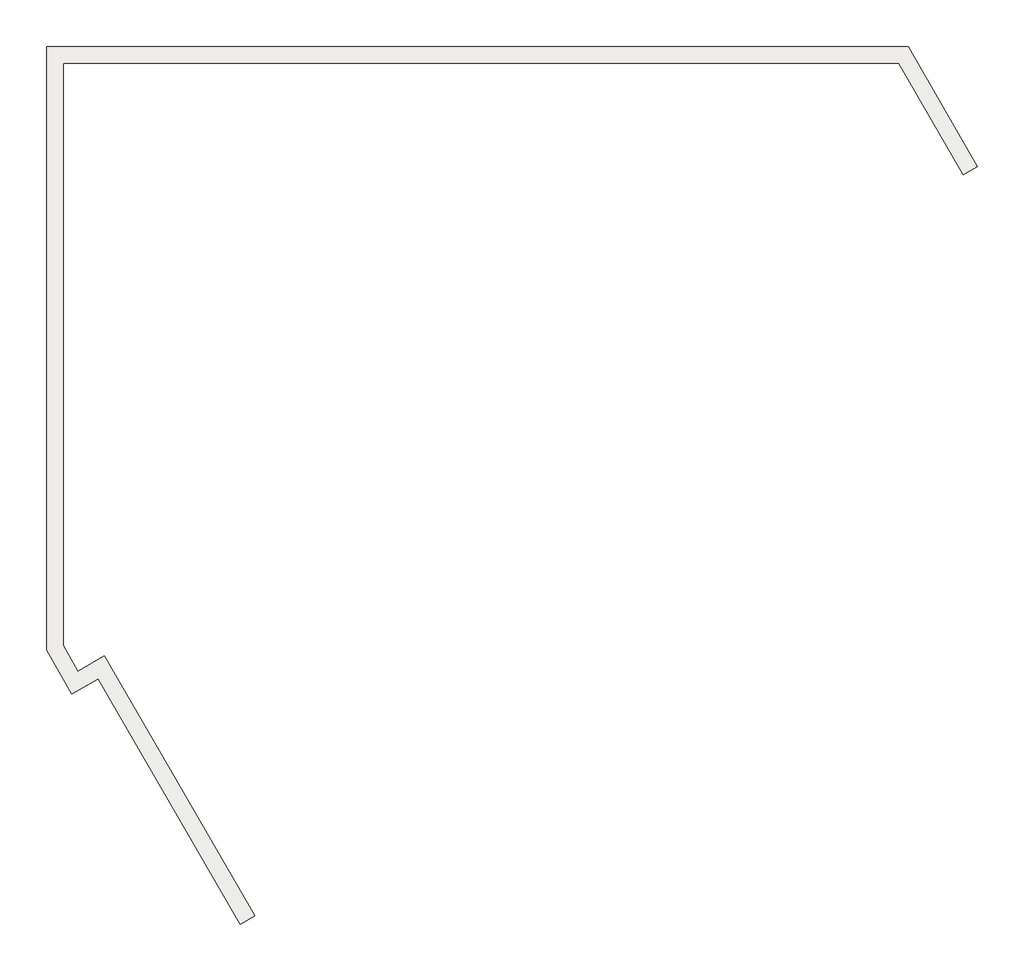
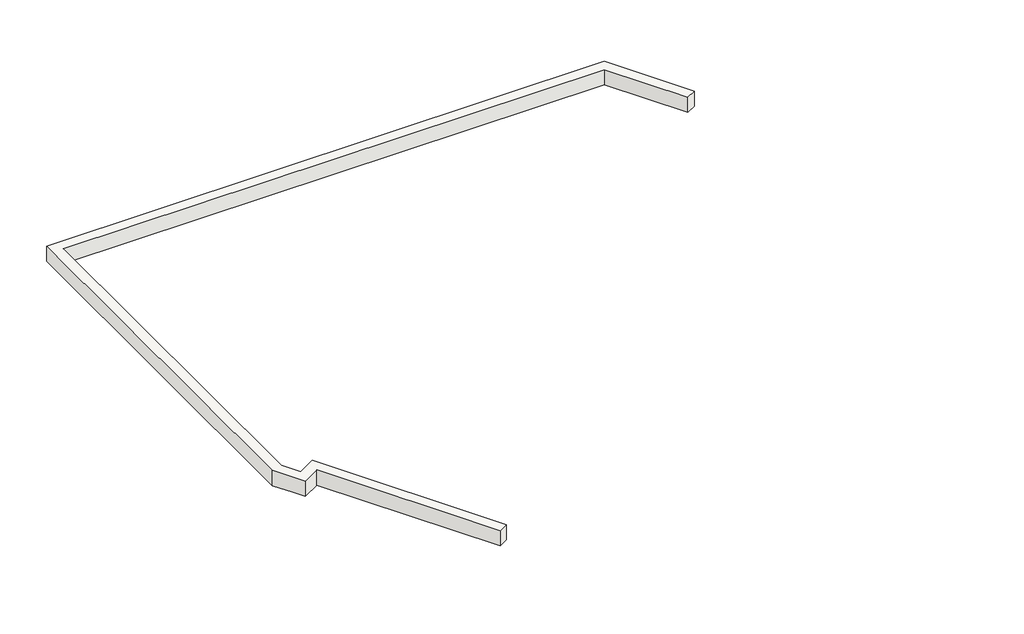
# One storey: 1 slab.
"""IFC4 building model written with IfcOpenShell, lengths in millimetres."""

from ifc_helpers import new_model, si_unit, origin, place, context, project, spatial, faceted_brep, element, save

model = new_model("IFC4")

# Units and contexts
model_context = context("Model", 3, world=origin())
ifc_project = project(units=[si_unit("LENGTHUNIT", "METRE", prefix="MILLI")], contexts=[model_context])

# Site, building, storey
site = spatial("IfcSite", under=ifc_project)
building = spatial("IfcBuilding", under=site)
storey = spatial("IfcBuildingStorey", under=building, Name="+1.700 Верх цокольной балки 4", Elevation=1700.0)

# Slab
placement = place(None, origin())
element("IfcSlab", 1, ObjectType="В25 600мм", at=placement, inside=storey, context=model_context, shape_type="Brep", body=[
    faceted_brep([(-3973.0562866, 23537.6215307, 1100.0), (-4198.0893619, 23927.313923, 1100.0), (-4586.9546485, 24600.7164598, 1100.0), (-4586.9524222, 39204.4353739, 1100.0), (16247.9915894, 39204.4353739, 1100.0), (17925.8232804, 36298.9147318, 1100.0), (17579.4300818, 36098.885354, 1100.0), (16017.0740967, 38804.4353739, 1100.0), (-4186.9524832, 38804.4353739, 1100.0), (-4186.9546321, 24707.9142881, 1100.0), (-3826.6924658, 24084.044107, 1100.0), (-3185.83165, 24454.1177422, 1100.0), (444.7016819, 18167.0809708, 1100.0), (98.3084833, 17967.0515931, 1100.0), (-3332.1954708, 23907.6951659, 1100.0), (-3973.0562866, 23537.6215307, 1700.0), (-3332.1954708, 23907.6951659, 1700.0), (98.3084833, 17967.0515931, 1700.0), (444.7016819, 18167.0809708, 1700.0), (-3185.83165, 24454.1177422, 1700.0), (-3826.6924658, 24084.044107, 1700.0), (-4186.9546321, 24707.9142881, 1700.0), (-4186.9524832, 38804.4353739, 1700.0), (16017.0740967, 38804.4353739, 1700.0), (17579.4300818, 36098.885354, 1700.0), (17925.8232804, 36298.9147318, 1700.0), (16247.9915894, 39204.4353739, 1700.0), (-4586.9524222, 39204.4353739, 1700.0), (-4586.9546485, 24600.7164598, 1700.0)], [[[0, 1, 2, 3, 4, 5, 6, 7, 8, 9, 10, 11, 12, 13, 14]], [[15, 16, 17, 18, 19, 20, 21, 22, 23, 24, 25, 26, 27, 28]], [[2, 1, 0, 15, 28]], [[10, 9, 21, 20]], [[3, 2, 28, 27]], [[4, 3, 27, 26]], [[5, 4, 26, 25]], [[6, 5, 25, 24]], [[7, 6, 24, 23]], [[8, 7, 23, 22]], [[9, 8, 22, 21]], [[11, 10, 20, 19]], [[12, 11, 19, 18]], [[13, 12, 18, 17]], [[14, 13, 17, 16]], [[0, 14, 16, 15]]]),
])

save(model, "model.ifc")
